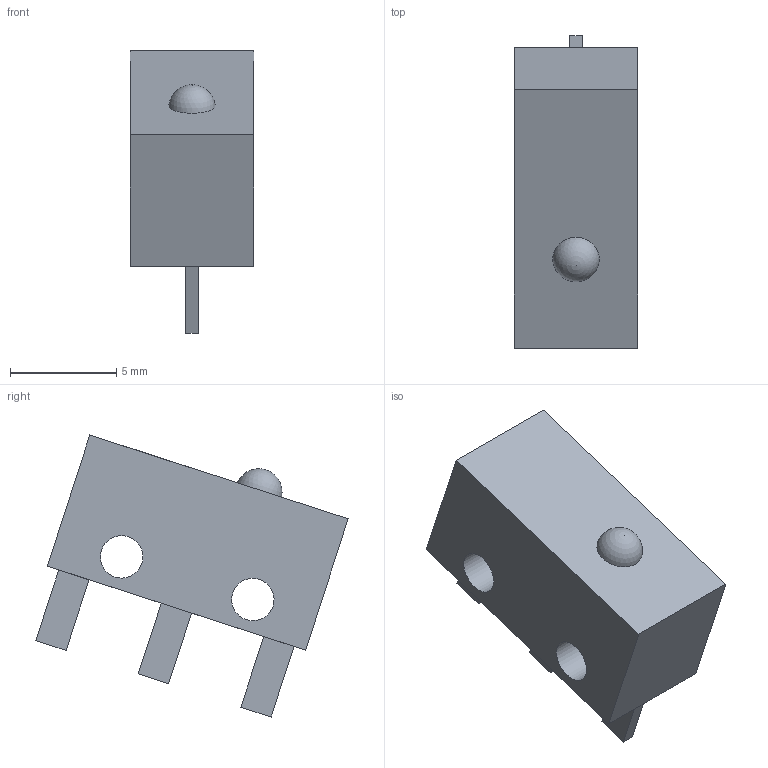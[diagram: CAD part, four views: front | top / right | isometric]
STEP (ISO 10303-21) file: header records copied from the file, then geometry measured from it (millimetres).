
FILE_DESCRIPTION(('Open CASCADE Model'),'2;1');
FILE_NAME('Open CASCADE Shape Model','2026-10-16T20:10:44',('Author'),( 'Open CASCADE'),'Open CASCADE STEP processor 7.9','Open CASCADE 7.9' ,'Unknown');
FILE_SCHEMA(('AUTOMOTIVE_DESIGN { 1 0 10303 214 1 1 1 1 }'));
Length unit declared in the file: millimetre
Products named in the file (1): Open CASCADE STEP translator 7.9 29
Bounding box: 5.8 x 14.72 x 13.29 mm (x, y, z)
Volume: 458 mm3; surface area: 497.8 mm2
Topology: 1 solids, 1 shells, 24 faces, 57 edges, 38 vertices
Faces by surface type: plane 21, cylinder 2, sphere 1
Full cylindrical faces by diameter (mm): 2 x2
Entity records: 1443 total; most frequent: CARTESIAN_POINT 261, DIRECTION 219, LINE 157, VECTOR 157, ORIENTED_EDGE 112, PCURVE 112, DEFINITIONAL_REPRESENTATION 112, EDGE_CURVE 56
